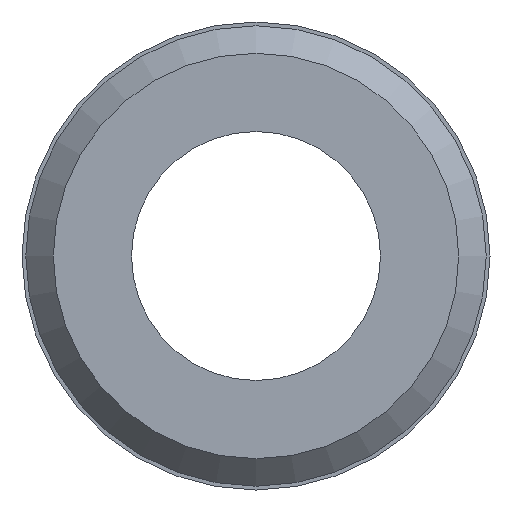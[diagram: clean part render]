
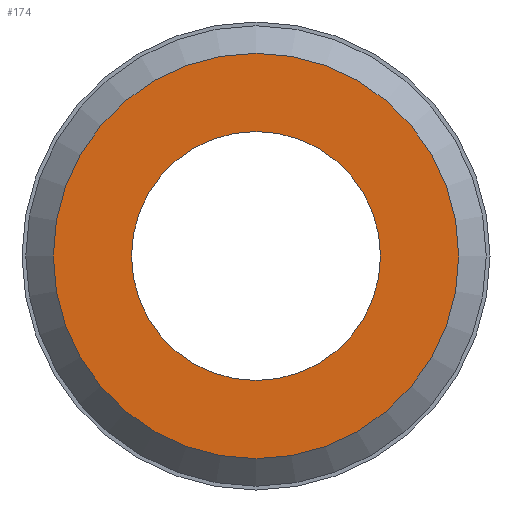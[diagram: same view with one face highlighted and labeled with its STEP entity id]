
A CAD part, front view. The second image highlights one B-rep face of the part: STEP entity #174.
In plain terms, the highlighted planar face has unit normal (0, -1, 0).
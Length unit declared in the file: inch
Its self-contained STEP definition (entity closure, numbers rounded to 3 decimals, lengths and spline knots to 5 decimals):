
#16=FACE_BOUND('',#41,.T.);
#20=PLANE('',#202);
#30=FACE_OUTER_BOUND('',#40,.T.);
#40=EDGE_LOOP('',(#133));
#41=EDGE_LOOP('',(#134,#135));
#62=CIRCLE('',#197,0.136);
#66=CIRCLE('',#203,0.0835);
#67=CIRCLE('',#204,0.0835);
#81=VERTEX_POINT('',#292);
#85=VERTEX_POINT('',#304);
#86=VERTEX_POINT('',#305);
#99=EDGE_CURVE('',#81,#81,#62,.T.);
#105=EDGE_CURVE('',#85,#86,#66,.T.);
#106=EDGE_CURVE('',#86,#85,#67,.T.);
#133=ORIENTED_EDGE('',*,*,#99,.F.);
#134=ORIENTED_EDGE('',*,*,#105,.F.);
#135=ORIENTED_EDGE('',*,*,#106,.F.);
#174=ADVANCED_FACE('',(#30,#16),#20,.T.);
#197=AXIS2_PLACEMENT_3D('',#293,#229,#230);
#202=AXIS2_PLACEMENT_3D('',#303,#241,#242);
#203=AXIS2_PLACEMENT_3D('',#306,#243,#244);
#204=AXIS2_PLACEMENT_3D('',#307,#245,#246);
#229=DIRECTION('center_axis',(0.,1.,0.));
#230=DIRECTION('ref_axis',(0.,0.,1.));
#241=DIRECTION('center_axis',(0.,-1.,0.));
#242=DIRECTION('ref_axis',(0.,0.,-1.));
#243=DIRECTION('center_axis',(0.,-1.,0.));
#244=DIRECTION('ref_axis',(1.,0.,0.));
#245=DIRECTION('center_axis',(0.,-1.,0.));
#246=DIRECTION('ref_axis',(1.,0.,0.));
#292=CARTESIAN_POINT('',(0.,0.,-0.136));
#293=CARTESIAN_POINT('Origin',(0.,0.,0.));
#303=CARTESIAN_POINT('Origin',(0.,0.,-0.0835));
#304=CARTESIAN_POINT('',(0.,0.,-0.0835));
#305=CARTESIAN_POINT('',(0.,0.,0.0835));
#306=CARTESIAN_POINT('Origin',(0.,0.,0.));
#307=CARTESIAN_POINT('Origin',(0.,0.,0.));
